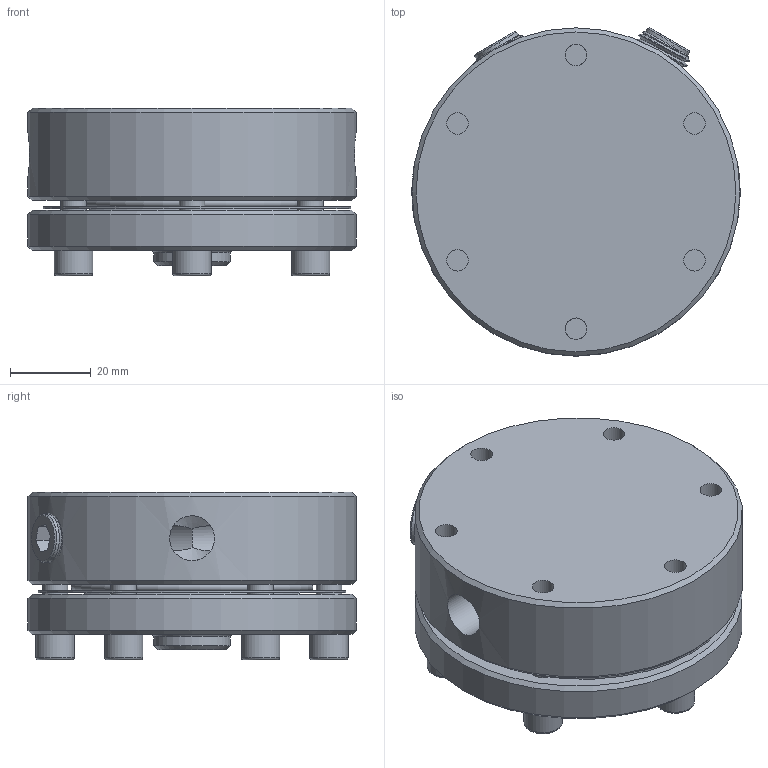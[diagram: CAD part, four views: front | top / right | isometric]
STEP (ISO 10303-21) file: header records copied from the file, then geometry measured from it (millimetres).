
FILE_DESCRIPTION(/* description */ (''),/* implementation_level */ '2;1');
FILE_NAME(/* name */ 'Z:\Models\GS Series\GS2\GSDM2SNX4 External Model.stp',/* time_stamp */ '2018-01-10T12:21:35-05:00',/* author */ ('Owner'),/* organization */ (''),/* preprocessor_version */ 'ST-DEVELOPER v15.6',/* originating_system */ 'Autodesk Inventor 2015',/* authorisation */ '');
FILE_SCHEMA (('CONFIG_CONTROL_DESIGN'));
Length unit declared in the file: inch
Products named in the file (8): GSD2 SS316 HP1000; GSD2 Reference Cap HP1000; GS(D)2 Diaphragm; Part5; Oring-033; Oring-035; ANSI B18.3 - 1_4-28 UNF - 0.875(31); GSD2 Assembly R4
Assembly tree (13 placements, depth 2):
  GSD2 Assembly R4
    GSD2 SS316 HP1000
    GSD2 Reference Cap HP1000
    GS(D)2 Diaphragm
    Part5  x2
    Oring-033
    Oring-035
    ANSI B18.3 - 1_4-28 UNF - 0.875(31)  x6
Bounding box: 81.28 x 81.3 x 41.58 mm (x, y, z)
Volume: 157031.2 mm3; surface area: 56767.6 mm2
Topology: 13 solids, 13 shells, 229 faces, 557 edges, 360 vertices
Faces by surface type: plane 88, cone 62, cylinder 52, torus 19, bspline 8
Full cylindrical faces by diameter (mm): 1.524 x1, 5.182 x6, 5.359 x6, 6.35 x6, 6.528 x6, 8.611 x1, 9.525 x6, 10.716 x4, 11.112 x2, 19.05 x1, 48.768 x1, 53.746 x1, 55.093 x1, 60.046 x1, 76.2 x1, 81.28 x2
Entity records: 7109 total; most frequent: CARTESIAN_POINT 4315, DIRECTION 542, ORIENTED_EDGE 450, AXIS2_PLACEMENT_3D 241, EDGE_CURVE 225, EDGE_LOOP 222, VERTEX_POINT 175, FACE_OUTER_BOUND 120
